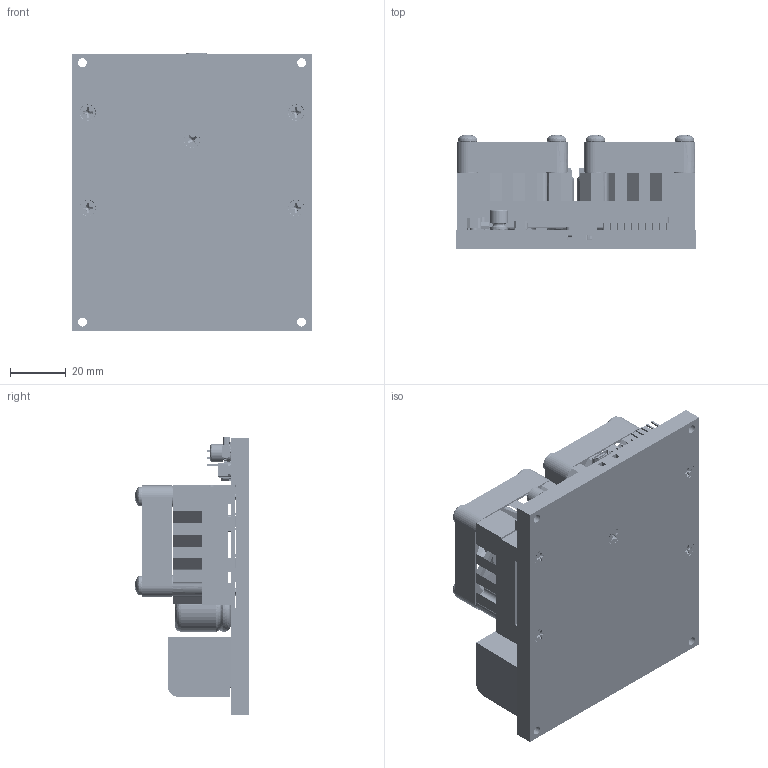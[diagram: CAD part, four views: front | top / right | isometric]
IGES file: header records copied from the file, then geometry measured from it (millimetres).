
Start section: SolidWorks IGES file using analytic representation for surfaces
Global section: file name: J:\FREELACER\NEW 2017\41\Pro 32-MCP60A-HV\3.shrink wrapped\MC60A-HV_shrink wrapped.IGS; native system: SolidWorks 2021; preprocessor: SolidWorks 2021; author: ADMIN; date: 220224.142739; units: millimetre
Bounding box: 85.98 x 41.01 x 100.12 mm (x, y, z)
Surface area: 97732 mm2 (no closed solid volume)
Topology: 0 solids, 0 shells, 5088 faces, 57913 edges, 57880 vertices
Faces by surface type: bspline 2859, revolution 2229
